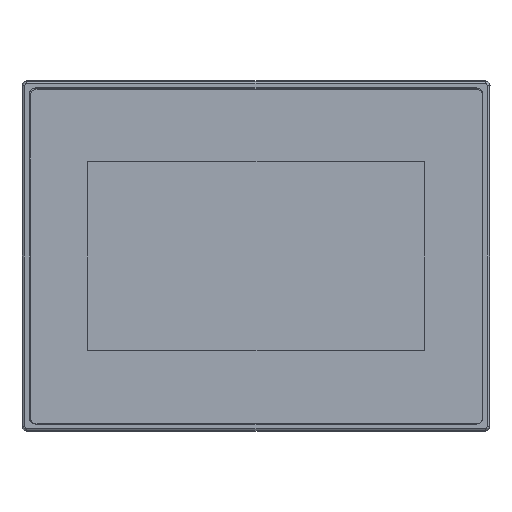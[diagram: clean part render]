
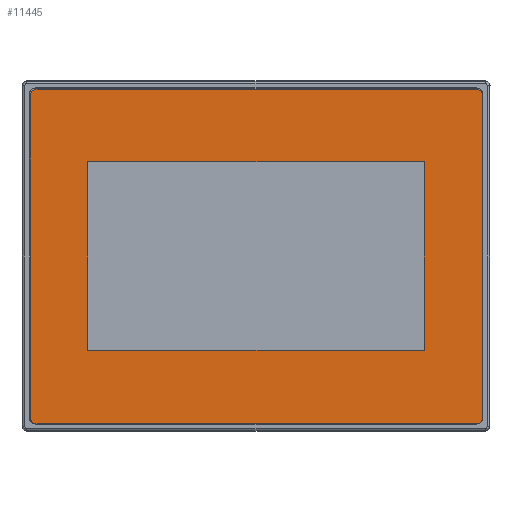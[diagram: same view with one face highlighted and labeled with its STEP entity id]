
A CAD part, front view. The second image highlights one B-rep face of the part: STEP entity #11445.
In plain terms, the highlighted planar face has unit normal (0, -1, 0).
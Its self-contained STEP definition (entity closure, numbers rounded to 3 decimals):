
#11197=DIRECTION('',(0.,0.,-1.));
#11198=VECTOR('',#11197,86.3);
#11199=CARTESIAN_POINT('',(77.2,-1.33,
43.15));
#11200=LINE('',#11199,#11198);
#11213=CARTESIAN_POINT('',(100.999,-1.33,
-73.999));
#11214=DIRECTION('',(0.,-1.,0.));
#11215=DIRECTION('',(0.,0.,-1.));
#11216=AXIS2_PLACEMENT_3D('',#11213,#11214,#11215);
#11218=CARTESIAN_POINT('',(-100.4,-1.33,
-73.999));
#11219=DIRECTION('',(0.,-1.,0.));
#11220=DIRECTION('',(-1.,0.,0.));
#11221=AXIS2_PLACEMENT_3D('',#11218,#11219,#11220);
#11223=CARTESIAN_POINT('',(-100.4,-1.33,
73.4));
#11224=DIRECTION('',(0.,-1.,0.));
#11225=DIRECTION('',(0.,0.,1.));
#11226=AXIS2_PLACEMENT_3D('',#11223,#11224,#11225);
#11228=CARTESIAN_POINT('',(100.999,-1.33,
73.4));
#11229=DIRECTION('',(0.,-1.,0.));
#11230=DIRECTION('',(1.,0.,0.));
#11231=AXIS2_PLACEMENT_3D('',#11228,#11229,#11230);
#11241=DIRECTION('',(0.,0.,-1.));
#11242=VECTOR('',#11241,147.4);
#11243=CARTESIAN_POINT('',(103.999,-1.33,
73.4));
#11244=LINE('',#11243,#11242);
#11253=DIRECTION('',(1.,0.,0.));
#11254=VECTOR('',#11253,201.4);
#11255=CARTESIAN_POINT('',(-100.4,-1.33,
76.4));
#11256=LINE('',#11255,#11254);
#11265=DIRECTION('',(0.,0.,1.));
#11266=VECTOR('',#11265,147.4);
#11267=CARTESIAN_POINT('',(-103.4,-1.33,
-73.999));
#11268=LINE('',#11267,#11266);
#11277=DIRECTION('',(-1.,0.,0.));
#11278=VECTOR('',#11277,201.4);
#11279=CARTESIAN_POINT('',(100.999,-1.33,
-76.999));
#11280=LINE('',#11279,#11278);
#11317=DIRECTION('',(-1.,0.,0.));
#11318=VECTOR('',#11317,154.4);
#11319=CARTESIAN_POINT('',(77.2,-1.33,
-43.15));
#11320=LINE('',#11319,#11318);
#11325=DIRECTION('',(0.,0.,1.));
#11326=VECTOR('',#11325,86.3);
#11327=CARTESIAN_POINT('',(-77.2,-1.33,
-43.15));
#11328=LINE('',#11327,#11326);
#11337=DIRECTION('',(1.,0.,0.));
#11338=VECTOR('',#11337,154.4);
#11339=CARTESIAN_POINT('',(-77.2,-1.33,
43.15));
#11340=LINE('',#11339,#11338);
#11349=CARTESIAN_POINT('',(100.999,-1.33,
-76.999));
#11350=CARTESIAN_POINT('',(103.999,-1.33,
-73.999));
#11351=VERTEX_POINT('',#11349);
#11352=VERTEX_POINT('',#11350);
#11353=CARTESIAN_POINT('',(-100.4,-1.33,
-76.999));
#11354=VERTEX_POINT('',#11353);
#11355=CARTESIAN_POINT('',(-103.4,-1.33,
-73.999));
#11356=VERTEX_POINT('',#11355);
#11357=CARTESIAN_POINT('',(-103.4,-1.33,
73.4));
#11358=VERTEX_POINT('',#11357);
#11359=CARTESIAN_POINT('',(-100.4,-1.33,
76.4));
#11360=VERTEX_POINT('',#11359);
#11361=CARTESIAN_POINT('',(100.999,-1.33,
76.4));
#11362=VERTEX_POINT('',#11361);
#11363=CARTESIAN_POINT('',(103.999,-1.33,
73.4));
#11364=VERTEX_POINT('',#11363);
#11365=CARTESIAN_POINT('',(77.2,-1.33,
-43.15));
#11366=CARTESIAN_POINT('',(-77.2,-1.33,
-43.15));
#11367=VERTEX_POINT('',#11365);
#11368=VERTEX_POINT('',#11366);
#11369=CARTESIAN_POINT('',(77.2,-1.33,
43.15));
#11370=VERTEX_POINT('',#11369);
#11371=CARTESIAN_POINT('',(-77.2,-1.33,
43.15));
#11372=VERTEX_POINT('',#11371);
#11413=CARTESIAN_POINT('',(0.299,-1.33,
-0.299));
#11414=DIRECTION('',(0.,1.,0.));
#11415=DIRECTION('',(-1.,0.,0.));
#11416=AXIS2_PLACEMENT_3D('',#11413,#11414,#11415);
#11417=PLANE('',#11416);
#11419=ORIENTED_EDGE('',*,*,#11418,.F.);
#11421=ORIENTED_EDGE('',*,*,#11420,.T.);
#11423=ORIENTED_EDGE('',*,*,#11422,.F.);
#11425=ORIENTED_EDGE('',*,*,#11424,.T.);
#11427=ORIENTED_EDGE('',*,*,#11426,.F.);
#11429=ORIENTED_EDGE('',*,*,#11428,.T.);
#11431=ORIENTED_EDGE('',*,*,#11430,.F.);
#11433=ORIENTED_EDGE('',*,*,#11432,.T.);
#11434=EDGE_LOOP('',(#11419,#11421,#11423,#11425,#11427,#11429,#11431,#11433));
#11435=FACE_OUTER_BOUND('',#11434,.F.);
#11437=ORIENTED_EDGE('',*,*,#11436,.F.);
#11438=ORIENTED_EDGE('',*,*,#11402,.F.);
#11440=ORIENTED_EDGE('',*,*,#11439,.F.);
#11442=ORIENTED_EDGE('',*,*,#11441,.F.);
#11443=EDGE_LOOP('',(#11437,#11438,#11440,#11442));
#11444=FACE_BOUND('',#11443,.F.);
#11445=ADVANCED_FACE('',(#11435,#11444),#11417,.F.);
#11217=CIRCLE('',#11216,3.);
#11222=CIRCLE('',#11221,3.);
#11227=CIRCLE('',#11226,3.);
#11232=CIRCLE('',#11231,3.);
#11402=EDGE_CURVE('',#11370,#11367,#11200,.T.);
#11418=EDGE_CURVE('',#11351,#11352,#11217,.T.);
#11420=EDGE_CURVE('',#11351,#11354,#11280,.T.);
#11422=EDGE_CURVE('',#11356,#11354,#11222,.T.);
#11424=EDGE_CURVE('',#11356,#11358,#11268,.T.);
#11426=EDGE_CURVE('',#11360,#11358,#11227,.T.);
#11428=EDGE_CURVE('',#11360,#11362,#11256,.T.);
#11430=EDGE_CURVE('',#11364,#11362,#11232,.T.);
#11432=EDGE_CURVE('',#11364,#11352,#11244,.T.);
#11436=EDGE_CURVE('',#11367,#11368,#11320,.T.);
#11439=EDGE_CURVE('',#11372,#11370,#11340,.T.);
#11441=EDGE_CURVE('',#11368,#11372,#11328,.T.);
